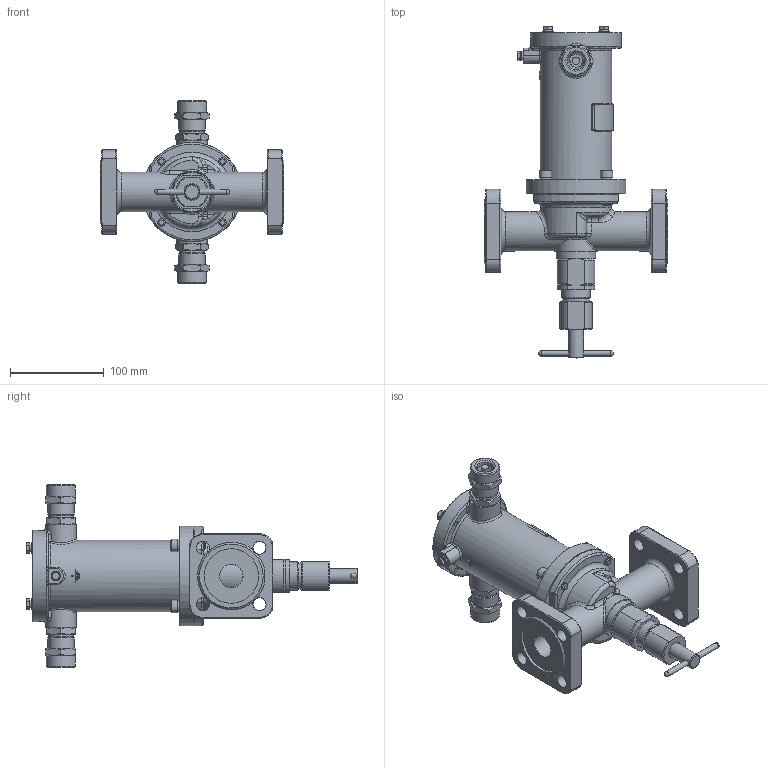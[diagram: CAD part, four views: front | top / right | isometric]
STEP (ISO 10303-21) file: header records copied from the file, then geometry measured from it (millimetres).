
FILE_DESCRIPTION(('STEP AP203'), '1');
FILE_NAME('ÑÅÍÑ DN25PN25.stp', '2018-09-19T08:34:58', ('Îðëîâ Å.Â.'), ('ÎÎÎ ÍÏÏ Ñåíñîð'), 'ASCON STEP Converter 1.3', 'Kompas 3D', '');
FILE_SCHEMA(('CONFIG_CONTROL_DESIGN','SUPPORT_RESOURCE_SCHEMA'));
Length unit declared in the file: millimetre
Products named in the file (1): 12
Bounding box: 196 x 353.7 x 194 mm (x, y, z)
Volume: 1025485.2 mm3; surface area: 267976.5 mm2
Topology: 3 solids, 18 shells, 1956 faces, 5207 edges, 3375 vertices
Faces by surface type: cylinder 995, plane 713, cone 123, torus 57, bspline 50, extrusion 16, sphere 2
Full cylindrical faces by diameter (mm): 3.5 x2, 4.134 x1, 4.917 x4, 5 x1, 6 x14, 6.5 x4, 8 x12, 9 x4, 10 x1, 12 x4, 13 x6, 14 x8, 16 x3, 17 x2, 18 x1, 18.632 x2, 19.9 x1, 20 x3, 22 x2, 22.376 x2, 23 x1, 23.5 x2, 24 x2, 24.5 x2, 25 x2, 26 x4, 26.376 x2, 27.8 x1, 28 x3, 28.5 x2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
Entity records: 76348 total; most frequent: CARTESIAN_POINT 26616, DIRECTION 10764, ORIENTED_EDGE 10372, EDGE_CURVE 5186, AXIS2_PLACEMENT_3D 4141, VERTEX_POINT 3375, VECTOR 2482, LINE 2466
